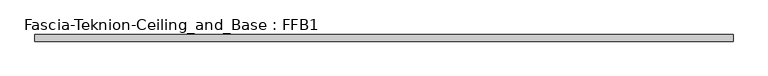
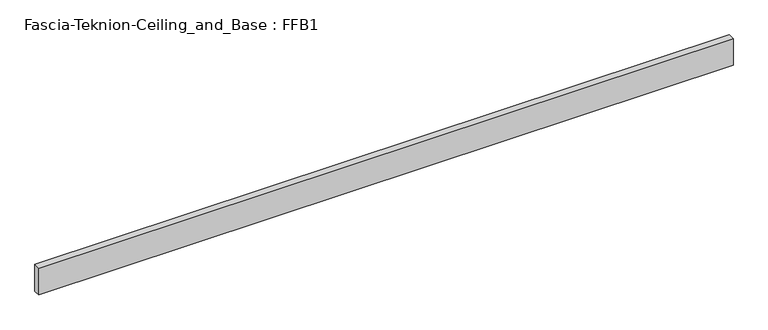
"""IFC4 building model written with IfcOpenShell, lengths in millimetres: proxy geometry, Fascia-Teknion-Ceiling_and_Base : FFB1."""

import ifcopenshell
import ifcopenshell.guid

model = None  # the IFC model being written
_history = None  # IfcOwnerHistory: only IFC2X3 demands one
_inside = {}  # id of a spatial element -> (the spatial element, [elements in it])
_under = {}  # id of a project, library or spatial element -> (it, [spatial elements below it])
_declared = {}  # id of a project -> (the project, [libraries it declares])
_typed = {}  # id of a type object -> (the type object, [elements of that type])
_made_of = {}  # id of a material, layer set ... -> (it, [elements and type objects made of it])


def new_model(schema):
    """Start an empty IFC model of exactly this schema.

    Asked for "IFC4X3", IfcOpenShell would pick the latest addendum, in which some entities
    have other attributes; the version numbers below select the first issue.
    IFC2X3 requires an IfcOwnerHistory on every rooted entity: one is made here for all.
    """
    global model, _history
    if schema == "IFC4X3":
        model = ifcopenshell.file(schema_version=(4, 3, 0, 0))
    else:
        model = ifcopenshell.file(schema=schema)
    _inside.clear()
    _under.clear()
    _declared.clear()
    _typed.clear()
    _made_of.clear()
    _history = None
    if model.schema == "IFC2X3":
        org = make("IfcOrganization", Name="unknown")
        user = make(
            "IfcPersonAndOrganization",
            ThePerson=make("IfcPerson", FamilyName="unknown"),
            TheOrganization=org,
        )
        app = make(
            "IfcApplication",
            ApplicationDeveloper=org,
            Version="unknown",
            ApplicationFullName="unknown",
            ApplicationIdentifier="unknown",
        )
        _history = make(
            "IfcOwnerHistory",
            OwningUser=user,
            OwningApplication=app,
            ChangeAction="ADDED",
            CreationDate=0,
        )
    return model


def make(cls, **values):
    """One entity of the class cls with the attributes given. An attribute that is None is left unset."""
    return model.create_entity(
        cls, **{name: value for name, value in values.items() if value is not None}
    )


def rooted(cls, **values):
    """An entity with a GlobalId (a new one), such as an element, a storey or a relation."""
    return make(cls, GlobalId=ifcopenshell.guid.new(), OwnerHistory=_history, **values)


def si_unit(unit_type, name, prefix=None):
    """IfcSIUnit, for example si_unit("LENGTHUNIT", "METRE", prefix="MILLI")."""
    return make("IfcSIUnit", UnitType=unit_type, Prefix=prefix, Name=name)


def assignment(units):
    """IfcUnitAssignment: the units of a project."""
    return None if units is None else make("IfcUnitAssignment", Units=units)


def point(xyz):
    """IfcCartesianPoint."""
    return None if xyz is None else make("IfcCartesianPoint", Coordinates=xyz)


def direction(xyz):
    """IfcDirection."""
    return None if xyz is None else make("IfcDirection", DirectionRatios=xyz)


def frame(location, z_axis=None, x_axis=None):
    """IfcAxis2Placement3D, a coordinate frame: its origin and axes. An axis left out is left unset."""
    return make(
        "IfcAxis2Placement3D",
        Location=point(location),
        Axis=direction(z_axis),
        RefDirection=direction(x_axis),
    )


def origin():
    """The frame at (0, 0, 0) with its axes left unset."""
    return frame((0.0, 0.0, 0.0))


def origin_with_axes():
    """The frame at (0, 0, 0) with the z axis (0, 0, 1) and the x axis (1, 0, 0) written out."""
    return frame((0.0, 0.0, 0.0), z_axis=(0.0, 0.0, 1.0), x_axis=(1.0, 0.0, 0.0))


def place(relative_to, where):
    """IfcLocalPlacement: puts the frame where relative to a parent placement (None: the world)."""
    return make(
        "IfcLocalPlacement", PlacementRelTo=relative_to, RelativePlacement=where
    )


def context(
    kind, dimensions, precision=None, world=None, true_north=None, identifier=None
):
    """IfcGeometricRepresentationContext, for example the 3D "Model" context."""
    return make(
        "IfcGeometricRepresentationContext",
        ContextIdentifier=identifier,
        ContextType=kind,
        CoordinateSpaceDimension=dimensions,
        Precision=precision,
        WorldCoordinateSystem=world,
        TrueNorth=true_north,
    )


def project(units=None, contexts=None):
    """IfcProject with its units and contexts."""
    return rooted(
        "IfcProject",
        Name="project",
        RepresentationContexts=contexts,
        UnitsInContext=assignment(units),
    )


def spatial(cls, under=None, at=None, **own):
    """A site, building, storey or space (cls), placed at a placement, below another one or the project."""
    s = rooted(cls, ObjectPlacement=at, **own)
    if under is not None:
        _under.setdefault(under.id(), (under, []))[1].append(s)
    return s


def polyline(points):
    """IfcPolyline through the points."""
    return make("IfcPolyline", Points=[point(p) for p in points])


def outline(outer, holes=None, kind="AREA"):
    """IfcArbitraryClosedProfileDef: a profile drawn as a closed curve; with holes, ...WithVoids."""
    if holes is None:
        return make("IfcArbitraryClosedProfileDef", ProfileType=kind, OuterCurve=outer)
    return make(
        "IfcArbitraryProfileDefWithVoids",
        ProfileType=kind,
        OuterCurve=outer,
        InnerCurves=holes,
    )


def extrude(swept, where, along, depth):
    """IfcExtrudedAreaSolid: the profile swept, set in the frame where, extruded along a direction by depth."""
    return make(
        "IfcExtrudedAreaSolid",
        SweptArea=swept,
        Position=where,
        ExtrudedDirection=direction(along),
        Depth=depth,
    )


def shape(context_of_items, identifier, shape_type, items):
    """IfcShapeRepresentation: the items that make up one representation, for example the "Body"."""
    return make(
        "IfcShapeRepresentation",
        ContextOfItems=context_of_items,
        RepresentationIdentifier=identifier,
        RepresentationType=shape_type,
        Items=items,
    )


def source(mapping_origin, context_of_items, identifier, shape_type, items):
    """IfcRepresentationMap: a shape defined once, which mapped items show again and again."""
    return make(
        "IfcRepresentationMap",
        MappingOrigin=mapping_origin,
        MappedRepresentation=shape(context_of_items, identifier, shape_type, items),
    )


def transform(
    local_origin,
    x_axis=None,
    y_axis=None,
    z_axis=None,
    scale=None,
    scale2=None,
    scale3=None,
    uniform=True,
):
    """IfcCartesianTransformationOperator3D, or its non-uniform kind. x_axis, y_axis, z_axis: its Axis1, 2, 3."""
    if uniform:
        return make(
            "IfcCartesianTransformationOperator3D",
            Axis1=direction(x_axis),
            Axis2=direction(y_axis),
            LocalOrigin=point(local_origin),
            Scale=scale,
            Axis3=direction(z_axis),
        )
    return make(
        "IfcCartesianTransformationOperator3DnonUniform",
        Axis1=direction(x_axis),
        Axis2=direction(y_axis),
        LocalOrigin=point(local_origin),
        Scale=scale,
        Axis3=direction(z_axis),
        Scale2=scale2,
        Scale3=scale3,
    )


def mapped(mapping_source, mapping_target):
    """IfcMappedItem: shows the shape of a source again, moved by a transform."""
    return make(
        "IfcMappedItem", MappingSource=mapping_source, MappingTarget=mapping_target
    )


def made_of(thing, what):
    """Note that an element or type object is made of a material, layer set ...; save() writes the relation."""
    if what is not None:
        _made_of.setdefault(what.id(), (what, []))[1].append(thing)
    return thing


def element(
    cls,
    number,
    at=None,
    inside=None,
    cuts=None,
    type_object=None,
    material=None,
    context=None,
    identifier="Body",
    shape_type=None,
    held_by="IfcProductDefinitionShape",
    body=None,
    shapes=None,
    **own,
):
    """One element of the class cls, such as IfcWall. Its Tag is "e" and its number.

    at: its placement. inside: the storey or other place that contains it. cuts: it is an
    opening in that element (IfcRelVoidsElement). A single representation is given by context,
    identifier, shape_type and body (its items); several are given by shapes. held_by: the class
    of the entity that holds the representations. save() writes the other relations.
    """
    e = rooted(cls, Tag="e%d" % number, ObjectPlacement=at, **own)
    if body is not None:
        shapes = [shape(context, identifier, shape_type, body)]
    if shapes is not None:
        e.Representation = make(held_by, Representations=shapes)
    if inside is not None:
        _inside.setdefault(inside.id(), (inside, []))[1].append(e)
    if cuts is not None:
        rooted(
            "IfcRelVoidsElement", RelatingBuildingElement=cuts, RelatedOpeningElement=e
        )
    if type_object is not None:
        _typed.setdefault(type_object.id(), (type_object, []))[1].append(e)
    return made_of(e, material)


def aggregate(whole, parts):
    """IfcRelAggregates: a whole, such as a stair, and the parts it consists of."""
    return rooted("IfcRelAggregates", RelatingObject=whole, RelatedObjects=parts)


def save(model, path):
    """Write the relations noted so far, then the file.

    IfcRelAggregates (storeys below a building ...), IfcRelContainedInSpatialStructure (elements
    in a storey), IfcRelDefinesByType, IfcRelAssociatesMaterial and IfcRelDeclares: one each for
    every whole, place, type object, material and project.
    """
    for whole, parts in _under.values():
        aggregate(whole, parts)
    for where, things in _inside.values():
        rooted(
            "IfcRelContainedInSpatialStructure",
            RelatedElements=things,
            RelatingStructure=where,
        )
    for kind, things in _typed.values():
        rooted("IfcRelDefinesByType", RelatedObjects=things, RelatingType=kind)
    for what, things in _made_of.values():
        rooted("IfcRelAssociatesMaterial", RelatedObjects=things, RelatingMaterial=what)
    for by, libraries in _declared.values():
        rooted("IfcRelDeclares", RelatingContext=by, RelatedDefinitions=libraries)
    model.write(path)


def fascia_teknion_ceiling_and_base_ffb1_afe21305(model_context):
    return source(origin(), model_context, "Body", "SweptSolid", [
        extrude(outline(polyline([(998.8407125, 0.0), (-998.8407125, 0.0), (-998.8407125, 19.05), (998.8407125, 19.05), (998.8407125, 0.0)])), origin_with_axes(), (0.0, 0.0, 1.0), 81.28),
    ])


if __name__ == "__main__":
    model = new_model("IFC4")
    model_context = context("Model", 3, world=origin())
    ifc_project = project(units=[si_unit("LENGTHUNIT", "METRE", prefix="MILLI")], contexts=[model_context])
    site = spatial("IfcSite", under=ifc_project)
    building = spatial("IfcBuilding", under=site)
    placement = place(None, origin())
    fascia_teknion_ceiling_and_base_ffb1_shape = fascia_teknion_ceiling_and_base_ffb1_afe21305(model_context)
    element("IfcBuildingElementProxy", 1, Name="Fascia-Teknion-Ceiling_and_Base : FFB1", ObjectType="Fascia-Teknion-Ceiling_and_Base : FFB1", at=placement, inside=building, context=model_context, shape_type="MappedRepresentation", body=[
        mapped(fascia_teknion_ceiling_and_base_ffb1_shape, transform((0.0, 0.0, 0.0), x_axis=(1.0, 0.0, 0.0), y_axis=(0.0, 1.0, 0.0), z_axis=(0.0, 0.0, 1.0))),
    ])
    save(model, "model.ifc")
